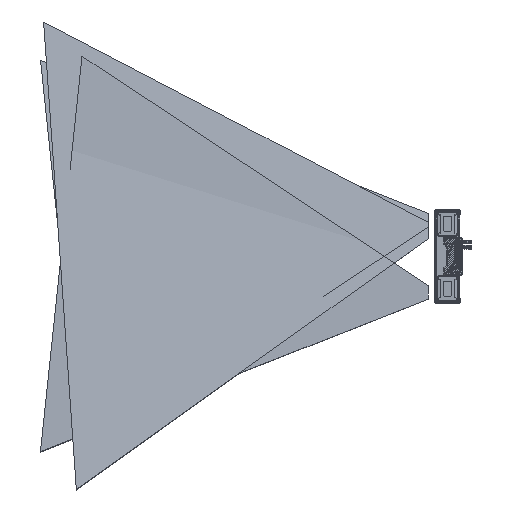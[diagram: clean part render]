
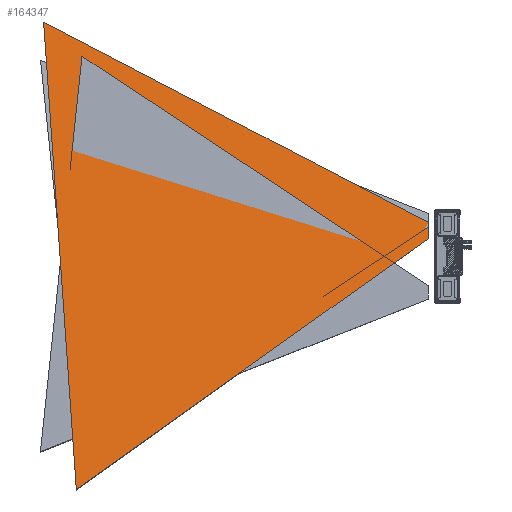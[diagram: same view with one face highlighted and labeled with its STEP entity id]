
A CAD part, top view. The second image highlights one B-rep face of the part: STEP entity #164347.
In plain terms, the highlighted planar face has unit normal (0.417, 0.029, 0.908).
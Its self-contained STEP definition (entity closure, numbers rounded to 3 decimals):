
#164236=DIRECTION('',(-0.758,-0.541,0.365));
#164237=VECTOR('',#164236,1905.065);
#164238=CARTESIAN_POINT('',(-79.75,72.57,24.679));
#164239=LINE('',#164238,#164237);
#164256=DIRECTION('',(0.826,-0.43,-0.365));
#164257=VECTOR('',#164256,1910.888);
#164258=CARTESIAN_POINT('',(-1657.722,960.272,
720.216));
#164259=LINE('',#164258,#164257);
#164264=DIRECTION('',(0.,-0.999,
0.032));
#164265=VECTOR('',#164264,66.296);
#164266=CARTESIAN_POINT('',(-79.75,138.832,22.553));
#164267=LINE('',#164266,#164265);
#164268=DIRECTION('',(-0.07,0.998,
0.));
#164269=VECTOR('',#164268,1922.294);
#164270=CARTESIAN_POINT('',(-1523.629,-957.339,
720.216));
#164271=LINE('',#164270,#164269);
#164273=CARTESIAN_POINT('',(-79.75,72.57,24.679));
#164275=VERTEX_POINT('',#164273);
#164276=CARTESIAN_POINT('',(-1523.629,-957.339,
720.216));
#164278=VERTEX_POINT('',#164276);
#164284=CARTESIAN_POINT('',(-79.75,138.832,22.553));
#164285=VERTEX_POINT('',#164284);
#164286=CARTESIAN_POINT('',(-1657.722,960.272,
720.216));
#164287=VERTEX_POINT('',#164286);
#164334=CARTESIAN_POINT('',(-834.109,54.371,
371.385));
#164335=DIRECTION('',(0.417,0.029,0.909));
#164336=DIRECTION('',(0.906,0.063,-0.418));
#164337=AXIS2_PLACEMENT_3D('',#164334,#164335,#164336);
#164338=PLANE('',#164337);
#164340=ORIENTED_EDGE('',*,*,#164339,.T.);
#164341=ORIENTED_EDGE('',*,*,#164299,.T.);
#164343=ORIENTED_EDGE('',*,*,#164342,.T.);
#164344=ORIENTED_EDGE('',*,*,#164326,.T.);
#164345=EDGE_LOOP('',(#164340,#164341,#164343,#164344));
#164346=FACE_OUTER_BOUND('',#164345,.F.);
#164299=EDGE_CURVE('',#164275,#164278,#164239,.T.);
#164326=EDGE_CURVE('',#164287,#164285,#164259,.T.);
#164339=EDGE_CURVE('',#164285,#164275,#164267,.T.);
#164342=EDGE_CURVE('',#164278,#164287,#164271,.T.);
#164347=ADVANCED_FACE('',(#164346),#164338,.T.);
